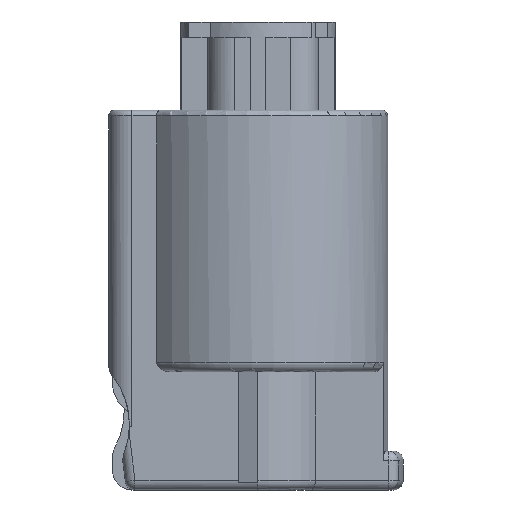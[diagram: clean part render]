
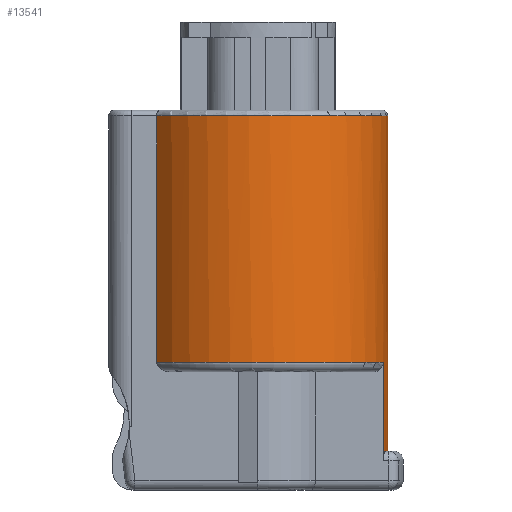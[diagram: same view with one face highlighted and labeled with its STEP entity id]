
A CAD part, left-side view. The second image highlights one B-rep face of the part: STEP entity #13541.
In plain terms, the highlighted cylindrical face has radius 6.7 mm (diameter 13.4 mm), a partial arc.
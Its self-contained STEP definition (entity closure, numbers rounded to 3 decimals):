
#4358=CARTESIAN_POINT('',(-3.75,-6.467,-18.1));
#4359=CARTESIAN_POINT('',(-3.75,-6.467,-18.075));
#4360=CARTESIAN_POINT('',(-3.746,-6.468,
-18.023));
#4361=CARTESIAN_POINT('',(-3.728,-6.473,
-17.947));
#4362=CARTESIAN_POINT('',(-3.699,-6.481,
-17.875));
#4363=CARTESIAN_POINT('',(-3.659,-6.492,
-17.808));
#4364=CARTESIAN_POINT('',(-3.608,-6.504,
-17.747));
#4365=CARTESIAN_POINT('',(-3.547,-6.519,
-17.695));
#4366=CARTESIAN_POINT('',(-3.48,-6.535,
-17.654));
#4367=CARTESIAN_POINT('',(-3.407,-6.551,
-17.623));
#4368=CARTESIAN_POINT('',(-3.329,-6.567,
-17.604));
#4369=CARTESIAN_POINT('',(-3.276,-6.577,-17.6));
#4370=CARTESIAN_POINT('',(-3.25,-6.582,-17.6));
#4376=CARTESIAN_POINT('',(-2.,0.,-17.6));
#4377=DIRECTION('',(0.,0.,1.));
#4378=DIRECTION('',(-0.187,-0.982,0.));
#4379=AXIS2_PLACEMENT_3D('',#4376,#4377,#4378);
#4408=DIRECTION('',(0.,0.,1.));
#4409=VECTOR('',#4408,5.1);
#4410=CARTESIAN_POINT('',(-3.75,-6.467,-18.1));
#4411=LINE('',#4410,#4409);
#4412=DIRECTION('',(0.,0.,1.));
#4413=VECTOR('',#4412,12.7);
#4414=CARTESIAN_POINT('',(-6.2,5.22,-13.));
#4415=LINE('',#4414,#4413);
#4435=CARTESIAN_POINT('',(-2.,0.,-13.));
#4436=DIRECTION('',(0.,0.,-1.));
#4437=DIRECTION('',(-0.261,-0.965,0.));
#4438=AXIS2_PLACEMENT_3D('',#4435,#4436,#4437);
#4778=CARTESIAN_POINT('',(-6.2,5.22,-0.3));
#4798=CARTESIAN_POINT('',(-2.,0.,-0.3));
#4799=DIRECTION('',(0.,0.,1.));
#4800=DIRECTION('',(-0.627,0.779,0.));
#4801=AXIS2_PLACEMENT_3D('',#4798,#4799,#4800);
#4816=DIRECTION('',(0.,0.,1.));
#4817=VECTOR('',#4816,17.3);
#4818=CARTESIAN_POINT('',(-2.,-6.7,-17.6));
#4819=LINE('',#4818,#4817);
#6020=CARTESIAN_POINT('',(-3.75,-6.467,-13.));
#6021=CARTESIAN_POINT('',(-6.2,5.22,-13.));
#6022=VERTEX_POINT('',#6020);
#6023=VERTEX_POINT('',#6021);
#6035=VERTEX_POINT('',#4778);
#6074=CARTESIAN_POINT('',(-2.,-6.7,-0.3));
#6075=VERTEX_POINT('',#6074);
#6186=CARTESIAN_POINT('',(-2.,-6.7,-17.6));
#6188=VERTEX_POINT('',#6186);
#7265=CARTESIAN_POINT('',(-3.25,-6.582,-17.6));
#7267=VERTEX_POINT('',#7265);
#7269=CARTESIAN_POINT('',(-3.75,-6.467,-18.1));
#7271=VERTEX_POINT('',#7269);
#13523=CARTESIAN_POINT('',(-2.,0.,0.));
#13524=DIRECTION('',(0.,0.,1.));
#13525=DIRECTION('',(1.,0.,0.));
#13526=AXIS2_PLACEMENT_3D('',#13523,#13524,#13525);
#13527=CYLINDRICAL_SURFACE('',#13526,6.7);
#13528=ORIENTED_EDGE('',*,*,#13508,.F.);
#13529=ORIENTED_EDGE('',*,*,#13497,.F.);
#13530=ORIENTED_EDGE('',*,*,#13482,.T.);
#13532=ORIENTED_EDGE('',*,*,#13531,.T.);
#13534=ORIENTED_EDGE('',*,*,#13533,.T.);
#13536=ORIENTED_EDGE('',*,*,#13535,.T.);
#13538=ORIENTED_EDGE('',*,*,#13537,.F.);
#13539=EDGE_LOOP('',(#13528,#13529,#13530,#13532,#13534,#13536,#13538));
#13540=FACE_OUTER_BOUND('',#13539,.F.);
#4371=B_SPLINE_CURVE_WITH_KNOTS('',3,(#4358,#4359,#4360,#4361,#4362,#4363,#4364,
#4365,#4366,#4367,#4368,#4369,#4370),.UNSPECIFIED.,.F.,.F.,(4,1,1,1,1,1,1,1,1,1,
4),(0.,0.1,0.2,0.3,0.4,0.5,0.6,0.7,0.8,0.9,1.),
.UNSPECIFIED.);
#4380=CIRCLE('',#4379,6.7);
#4439=CIRCLE('',#4438,6.7);
#4802=CIRCLE('',#4801,6.7);
#13482=EDGE_CURVE('',#7271,#6022,#4411,.T.);
#13497=EDGE_CURVE('',#7271,#7267,#4371,.T.);
#13508=EDGE_CURVE('',#7267,#6188,#4380,.T.);
#13531=EDGE_CURVE('',#6022,#6023,#4439,.T.);
#13533=EDGE_CURVE('',#6023,#6035,#4415,.T.);
#13535=EDGE_CURVE('',#6035,#6075,#4802,.T.);
#13537=EDGE_CURVE('',#6188,#6075,#4819,.T.);
#13541=ADVANCED_FACE('',(#13540),#13527,.T.);
